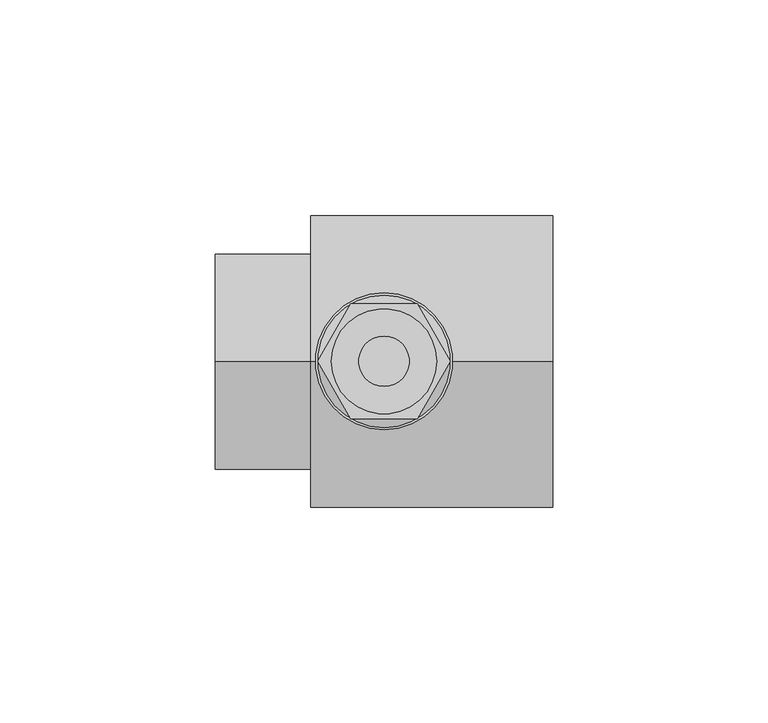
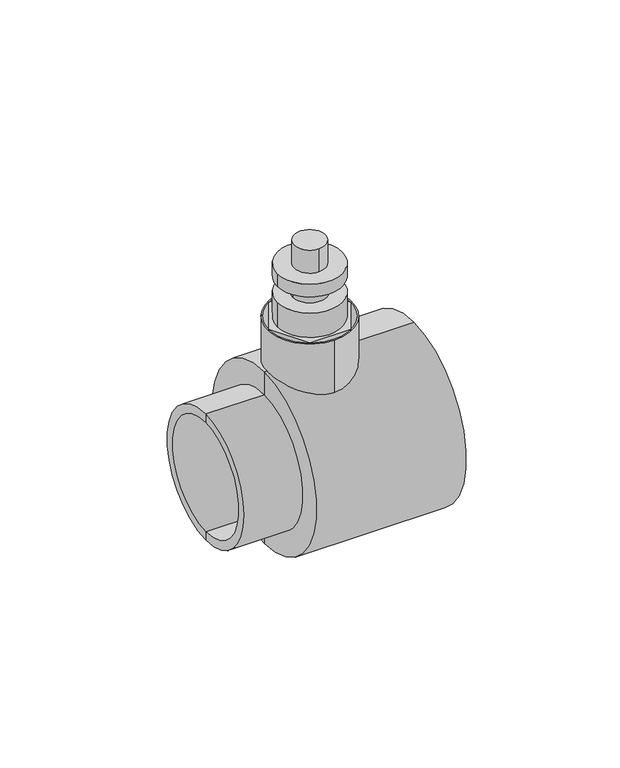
"""IFC4 building model written with IfcOpenShell, lengths in millimetres: valve geometry, Aquatherm - Draining Branch : DRAINING BRANCH."""

from ifc_helpers import new_model, si_unit, point, frame, origin, origin_2d, place, context, project, spatial, polyline, circle_curve, trimmed, segment, composite_curve, outline, extrude, source, transform, mapped, element, save
from ifc_brep_helpers import plane_surface, cylinder_surface, revolved_surface, advanced_brep


def valve_4ee98573(model_context):
    return source(origin(), model_context, "Body", "SolidModel", [
        extrude(outline(composite_curve([segment(trimmed(circle_curve(origin_2d(), 5.842), [point((0.0, 5.842))], [point((0.0, -5.842))], False, "CARTESIAN"), True, "CONTINUOUS"), segment(trimmed(circle_curve(origin_2d(), 5.842), [point((0.0, -5.842))], [point((0.0, 5.842))], False, "CARTESIAN"), True, "CONTINUOUS")], self_intersect=False)), frame((0.0, 0.0, 71.374), z_axis=(0.0, 0.0, 1.0), x_axis=(1.0, 0.0, 0.0)), (0.0, 0.0, 1.0), 9.144),
        extrude(outline(composite_curve([segment(trimmed(circle_curve(origin_2d(), 12.192), [point((12.192, 0.0))], [point((-12.192, 0.0))], False, "CARTESIAN"), True, "CONTINUOUS"), segment(trimmed(circle_curve(origin_2d(), 12.192), [point((-12.192, 0.0))], [point((12.192, 0.0))], False, "CARTESIAN"), True, "CONTINUOUS")], self_intersect=False)), frame((0.0, 0.0, 66.294), z_axis=(0.0, 0.0, 1.0), x_axis=(1.0, 0.0, 0.0)), (0.0, 0.0, 1.0), 5.08),
        extrude(outline(composite_curve([segment(trimmed(circle_curve(origin_2d(), 6.35), [point((6.35, 0.0))], [point((-6.35, 0.0))], False, "CARTESIAN"), True, "CONTINUOUS"), segment(trimmed(circle_curve(origin_2d(), 6.35), [point((-6.35, 0.0))], [point((6.35, 0.0))], False, "CARTESIAN"), True, "CONTINUOUS")], self_intersect=False)), frame((0.0, 0.0, 59.944), z_axis=(0.0, 0.0, 1.0), x_axis=(1.0, 0.0, 0.0)), (0.0, 0.0, 1.0), 6.35),
        extrude(outline(composite_curve([segment(trimmed(circle_curve(origin_2d(), 12.192), [point((12.192, 0.0))], [point((-12.192, 0.0))], False, "CARTESIAN"), True, "CONTINUOUS"), segment(trimmed(circle_curve(origin_2d(), 12.192), [point((-12.192, 0.0))], [point((12.192, 0.0))], False, "CARTESIAN"), True, "CONTINUOUS")], self_intersect=False)), frame((0.0, 0.0, 50.292), z_axis=(0.0, 0.0, 1.0), x_axis=(1.0, 0.0, 0.0)), (0.0, 0.0, 1.0), 9.652),
        extrude(outline(polyline([(15.367, 0.0), (7.6835, -13.3082124), (-7.6835, -13.3082124), (-15.367, 0.0), (-7.6835, 13.3082124), (7.6835, 13.3082124), (15.367, 0.0)])), frame((0.0, 0.0, 46.99), z_axis=(0.0, 0.0, 1.0), x_axis=(1.0, 0.0, 0.0)), (0.0, 0.0, 1.0), 3.302),
        extrude(outline(composite_curve([segment(trimmed(circle_curve(origin_2d(), 15.875), [point((0.0, 15.875))], [point((0.0, -15.875))], False, "CARTESIAN"), True, "CONTINUOUS"), segment(trimmed(circle_curve(origin_2d(), 15.875), [point((0.0, -15.875))], [point((0.0, 15.875))], False, "CARTESIAN"), True, "CONTINUOUS")], self_intersect=False), holes=[composite_curve([segment(trimmed(circle_curve(origin_2d(), 15.367), [point((0.0, 15.367))], [point((0.0, -15.367))], True, "CARTESIAN"), True, "CONTINUOUS"), segment(trimmed(circle_curve(origin_2d(), 15.367), [point((0.0, -15.367))], [point((0.0, 15.367))], True, "CARTESIAN"), True, "CONTINUOUS")], self_intersect=False)]), frame((0.0, 0.0, 21.717), z_axis=(0.0, 0.0, 1.0), x_axis=(1.0, 0.0, 0.0)), (0.0, 0.0, 1.0), 28.575),
        advanced_brep(
        [(-17.018, 0.0, -34.036), (-17.018, 0.0, 34.036), (39.116, 0.0, 34.036), (39.116, 0.0, -34.036), (-17.018, 0.0, -25.019), (-17.018, 0.0, 25.019), (-39.116, 0.0, -25.019), (-39.116, 0.0, 25.019), (-39.116, 0.0, -21.717), (-39.116, 0.0, 21.717), (15.494, 0.0, -21.717), (15.494, 0.0, 21.717), (15.494, 0.0, -25.019), (15.494, 0.0, 25.019), (39.116, 0.0, -25.019), (39.116, 0.0, 25.019)],
        [
            (0, 1, circle_curve(frame((-17.018, 0.0, 0.0), z_axis=(1.0, 0.0, 0.0), x_axis=(0.0, 0.0, 1.0)), 34.036)),
            (1, 2),
            (2, 3, circle_curve(frame((39.116, 0.0, 0.0), z_axis=(-1.0, 0.0, 0.0), x_axis=(0.0, 0.0, 1.0)), 34.036)),
            (3, 0),
            (1, 0, circle_curve(frame((-17.018, 0.0, 0.0), z_axis=(1.0, 0.0, 0.0), x_axis=(0.0, 0.0, 1.0)), 34.036)),
            (3, 2, circle_curve(frame((39.116, 0.0, 0.0), z_axis=(-1.0, 0.0, 0.0), x_axis=(0.0, 0.0, 1.0)), 34.036)),
            (4, 5, circle_curve(frame((-17.018, 0.0, 0.0), z_axis=(1.0, 0.0, 0.0), x_axis=(0.0, 0.0, 1.0)), 25.019)),
            (5, 1),
            (0, 4),
            (5, 4, circle_curve(frame((-17.018, 0.0, 0.0), z_axis=(1.0, 0.0, 0.0), x_axis=(0.0, 0.0, 1.0)), 25.019)),
            (6, 7, circle_curve(frame((-39.116, 0.0, 0.0), z_axis=(1.0, 0.0, 0.0), x_axis=(0.0, 0.0, 1.0)), 25.019)),
            (7, 5),
            (4, 6),
            (7, 6, circle_curve(frame((-39.116, 0.0, 0.0), z_axis=(1.0, 0.0, 0.0), x_axis=(0.0, 0.0, 1.0)), 25.019)),
            (8, 9, circle_curve(frame((-39.116, 0.0, 0.0), z_axis=(1.0, 0.0, 0.0), x_axis=(0.0, 0.0, 1.0)), 21.717)),
            (9, 7),
            (6, 8),
            (9, 8, circle_curve(frame((-39.116, 0.0, 0.0), z_axis=(1.0, 0.0, 0.0), x_axis=(0.0, 0.0, 1.0)), 21.717)),
            (10, 11, circle_curve(frame((15.494, 0.0, 0.0), z_axis=(1.0, 0.0, 0.0), x_axis=(0.0, 0.0, 1.0)), 21.717)),
            (11, 9),
            (8, 10),
            (11, 10, circle_curve(frame((15.494, 0.0, 0.0), z_axis=(1.0, 0.0, 0.0), x_axis=(0.0, 0.0, 1.0)), 21.717)),
            (12, 13, circle_curve(frame((15.494, 0.0, 0.0), z_axis=(1.0, 0.0, 0.0), x_axis=(0.0, 0.0, 1.0)), 25.019)),
            (13, 11),
            (10, 12),
            (13, 12, circle_curve(frame((15.494, 0.0, 0.0), z_axis=(1.0, 0.0, 0.0), x_axis=(0.0, 0.0, 1.0)), 25.019)),
            (14, 15, circle_curve(frame((39.116, 0.0, 0.0), z_axis=(1.0, 0.0, 0.0), x_axis=(0.0, 0.0, 1.0)), 25.019)),
            (15, 13),
            (12, 14),
            (15, 14, circle_curve(frame((39.116, 0.0, 0.0), z_axis=(1.0, 0.0, 0.0), x_axis=(0.0, 0.0, 1.0)), 25.019)),
            (2, 15),
            (14, 3),
        ],
        [
            cylinder_surface(frame((-45.466, 0.0, 0.0), z_axis=(-1.0, 0.0, 0.0), x_axis=(0.0, 0.0, 1.0)), 34.036),
            plane_surface(frame((-17.018, 0.0, 0.0), z_axis=(-1.0, 0.0, 0.0), x_axis=(0.0, 0.0, 1.0))),
            cylinder_surface(frame((-45.466, 0.0, 0.0), z_axis=(-1.0, 0.0, 0.0), x_axis=(0.0, 0.0, 1.0)), 25.019),
            plane_surface(frame((-39.116, 0.0, 0.0), z_axis=(-1.0, 0.0, 0.0), x_axis=(0.0, 0.0, 1.0))),
            revolved_surface(polyline([(-39.116, 0.0, 21.717), (15.494, 0.0, 21.717)]), (-45.466, 0.0, 0.0), (-1.0, 0.0, 0.0)),
            plane_surface(frame((15.494, 0.0, 0.0), z_axis=(1.0, 0.0, 0.0), x_axis=(0.0, 0.0, 1.0))),
            revolved_surface(polyline([(15.494, 0.0, 25.019), (39.11599999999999, 0.0, 25.019)]), (-45.466, 0.0, 0.0), (-1.0, 0.0, 0.0)),
            plane_surface(frame((39.116, 0.0, 0.0), z_axis=(1.0, 0.0, 0.0), x_axis=(0.0, 0.0, 1.0))),
        ],
        [
            (0, [[1, 2, 3, 4]]),
            (0, [[5, -4, 6, -2]]),
            (1, [[7, 8, -1, 9]]),
            (1, [[10, -9, -5, -8]]),
            (2, [[11, 12, -7, 13]]),
            (2, [[14, -13, -10, -12]]),
            (3, [[15, 16, -11, 17]]),
            (3, [[18, -17, -14, -16]]),
            (4, [[19, 20, -15, 21]]),
            (4, [[22, -21, -18, -20]]),
            (5, [[23, 24, -19, 25]]),
            (5, [[26, -25, -22, -24]]),
            (6, [[27, 28, -23, 29]]),
            (6, [[30, -29, -26, -28]]),
            (7, [[-3, 31, -27, 32]]),
            (7, [[-6, -32, -30, -31]]),
        ],
    ),
    ])


if __name__ == "__main__":
    model = new_model("IFC4")
    model_context = context("Model", 3, world=origin())
    ifc_project = project(units=[si_unit("LENGTHUNIT", "METRE", prefix="MILLI")], contexts=[model_context])
    site = spatial("IfcSite", under=ifc_project)
    building = spatial("IfcBuilding", under=site)
    placement = place(None, origin())
    valve_shape = valve_4ee98573(model_context)
    element("IfcValve", 1, ObjectType="Aquatherm - Draining Branch : DRAINING BRANCH", at=placement, inside=building, context=model_context, shape_type="MappedRepresentation", body=[
        mapped(valve_shape, transform((0.0, 0.0, 0.0), x_axis=(1.0, 0.0, 0.0), y_axis=(0.0, 1.0, 0.0), z_axis=(0.0, 0.0, 1.0))),
    ])
    save(model, "model.ifc")
